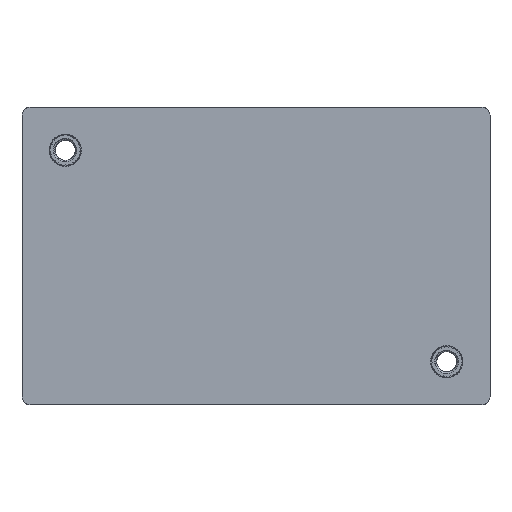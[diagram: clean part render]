
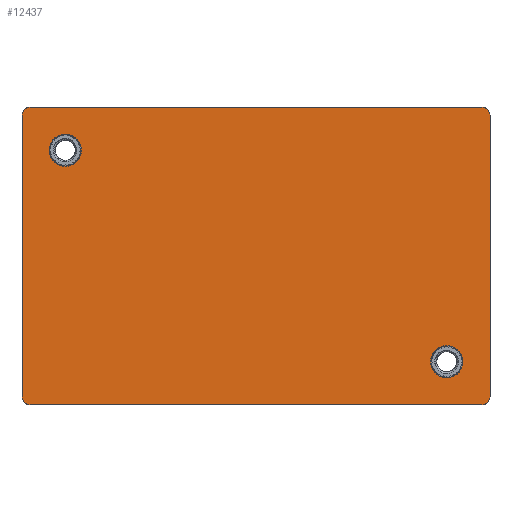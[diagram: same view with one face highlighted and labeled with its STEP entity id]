
A CAD part, front view. The second image highlights one B-rep face of the part: STEP entity #12437.
In plain terms, the highlighted planar face has unit normal (0, -1, 0).
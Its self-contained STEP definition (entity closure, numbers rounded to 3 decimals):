
#151 = DIRECTION ( 'NONE',  ( 0., 0., -1. ) ) ;
#265 = AXIS2_PLACEMENT_3D ( 'NONE', #15855, #11942, #13534 ) ;
#390 = ORIENTED_EDGE ( 'NONE', *, *, #10513, .F. ) ;
#498 = ORIENTED_EDGE ( 'NONE', *, *, #12482, .F. ) ;
#718 = CARTESIAN_POINT ( 'NONE',  ( -27.95, -1.2, 17.4 ) ) ;
#1566 = AXIS2_PLACEMENT_3D ( 'NONE', #7202, #7445, #1979 ) ;
#1718 = VERTEX_POINT ( 'NONE', #1976 ) ;
#1738 = EDGE_CURVE ( 'NONE', #16261, #16261, #15338, .T. ) ;
#1851 = AXIS2_PLACEMENT_3D ( 'NONE', #8055, #9143, #151 ) ;
#1976 = CARTESIAN_POINT ( 'NONE',  ( 28.95, -1.2, -17.4 ) ) ;
#1979 = DIRECTION ( 'NONE',  ( 0., 0., 1. ) ) ;
#2053 = ORIENTED_EDGE ( 'NONE', *, *, #2677, .T. ) ;
#2055 = DIRECTION ( 'NONE',  ( 1., 0., 0. ) ) ;
#2379 = AXIS2_PLACEMENT_3D ( 'NONE', #7727, #14148, #14230 ) ;
#2431 = VERTEX_POINT ( 'NONE', #6079 ) ;
#2606 = VERTEX_POINT ( 'NONE', #3791 ) ;
#2677 = EDGE_CURVE ( 'NONE', #11852, #2842, #10747, .T. ) ;
#2738 = EDGE_CURVE ( 'NONE', #11852, #1718, #13010, .T. ) ;
#2842 = VERTEX_POINT ( 'NONE', #13493 ) ;
#2865 = VECTOR ( 'NONE', #2055, 1000. ) ;
#2903 = FACE_OUTER_BOUND ( 'NONE', #3289, .T. ) ;
#3289 = EDGE_LOOP ( 'NONE', ( #7980, #15439, #390, #11232, #8024, #2053, #15864, #10983 ) ) ;
#3367 = DIRECTION ( 'NONE',  ( 0., 0., 1. ) ) ;
#3442 = CIRCLE ( 'NONE', #1566, 1. ) ;
#3448 = EDGE_CURVE ( 'NONE', #6835, #13772, #12087, .T. ) ;
#3450 = CIRCLE ( 'NONE', #2379, 2. ) ;
#3478 = CIRCLE ( 'NONE', #265, 1. ) ;
#3791 = CARTESIAN_POINT ( 'NONE',  ( 23.6, -1.2, -15.08 ) ) ;
#3967 = CARTESIAN_POINT ( 'NONE',  ( -28.95, -1.2, -18.4 ) ) ;
#4043 = AXIS2_PLACEMENT_3D ( 'NONE', #718, #11209, #9723 ) ;
#4198 = CARTESIAN_POINT ( 'NONE',  ( -28.95, -1.2, 17.4 ) ) ;
#4745 = ORIENTED_EDGE ( 'NONE', *, *, #1738, .F. ) ;
#5774 = CARTESIAN_POINT ( 'NONE',  ( -23.6, -1.2, 13.08 ) ) ;
#5797 = DIRECTION ( 'NONE',  ( 0., 0., 1. ) ) ;
#6079 = CARTESIAN_POINT ( 'NONE',  ( -28.95, -1.2, -17.4 ) ) ;
#6294 = EDGE_CURVE ( 'NONE', #2431, #13772, #13602, .T. ) ;
#6347 = DIRECTION ( 'NONE',  ( -1., 0., 0. ) ) ;
#6835 = VERTEX_POINT ( 'NONE', #11613 ) ;
#7120 = DIRECTION ( 'NONE',  ( 0., 0., -1. ) ) ;
#7202 = CARTESIAN_POINT ( 'NONE',  ( 27.95, -1.2, -17.4 ) ) ;
#7445 = DIRECTION ( 'NONE',  ( 0., -1., 0. ) ) ;
#7727 = CARTESIAN_POINT ( 'NONE',  ( 23.6, -1.2, -13.08 ) ) ;
#7980 = ORIENTED_EDGE ( 'NONE', *, *, #6294, .F. ) ;
#8024 = ORIENTED_EDGE ( 'NONE', *, *, #2738, .F. ) ;
#8055 = CARTESIAN_POINT ( 'NONE',  ( -27.95, -1.2, 17.4 ) ) ;
#8161 = AXIS2_PLACEMENT_3D ( 'NONE', #5774, #13470, #7120 ) ;
#8586 = VERTEX_POINT ( 'NONE', #11001 ) ;
#9054 = FACE_BOUND ( 'NONE', #13538, .T. ) ;
#9079 = CARTESIAN_POINT ( 'NONE',  ( 28.95, -1.2, -18.4 ) ) ;
#9143 = DIRECTION ( 'NONE',  ( 0., -1., 0. ) ) ;
#9369 = VERTEX_POINT ( 'NONE', #10463 ) ;
#9573 = DIRECTION ( 'NONE',  ( 0., -1., 0. ) ) ;
#9723 = DIRECTION ( 'NONE',  ( 0., 0., 1. ) ) ;
#10204 = EDGE_CURVE ( 'NONE', #6835, #2842, #13549, .T. ) ;
#10409 = FACE_BOUND ( 'NONE', #11399, .T. ) ;
#10463 = CARTESIAN_POINT ( 'NONE',  ( 27.95, -1.2, -18.4 ) ) ;
#10513 = EDGE_CURVE ( 'NONE', #9369, #8586, #11365, .T. ) ;
#10746 = CARTESIAN_POINT ( 'NONE',  ( 27.95, -1.2, 17.4 ) ) ;
#10747 = CIRCLE ( 'NONE', #14454, 1. ) ;
#10777 = CARTESIAN_POINT ( 'NONE',  ( -28.95, -1.2, -18.4 ) ) ;
#10911 = DIRECTION ( 'NONE',  ( 0., 0., -1. ) ) ;
#10983 = ORIENTED_EDGE ( 'NONE', *, *, #3448, .T. ) ;
#11001 = CARTESIAN_POINT ( 'NONE',  ( -27.95, -1.2, -18.4 ) ) ;
#11209 = DIRECTION ( 'NONE',  ( 0., -1., 0. ) ) ;
#11232 = ORIENTED_EDGE ( 'NONE', *, *, #12093, .T. ) ;
#11365 = LINE ( 'NONE', #3967, #12536 ) ;
#11399 = EDGE_LOOP ( 'NONE', ( #498 ) ) ;
#11613 = CARTESIAN_POINT ( 'NONE',  ( -27.95, -1.2, 18.4 ) ) ;
#11810 = PLANE ( 'NONE',  #1851 ) ;
#11852 = VERTEX_POINT ( 'NONE', #15878 ) ;
#11942 = DIRECTION ( 'NONE',  ( 0., -1., 0. ) ) ;
#12087 = CIRCLE ( 'NONE', #4043, 1. ) ;
#12093 = EDGE_CURVE ( 'NONE', #9369, #1718, #3442, .T. ) ;
#12290 = CARTESIAN_POINT ( 'NONE',  ( -28.95, -1.2, 18.4 ) ) ;
#12437 = ADVANCED_FACE ( 'NONE', ( #9054, #10409, #2903 ), #11810, .T. ) ;
#12482 = EDGE_CURVE ( 'NONE', #2606, #2606, #3450, .T. ) ;
#12536 = VECTOR ( 'NONE', #6347, 1000. ) ;
#13010 = LINE ( 'NONE', #9079, #14191 ) ;
#13470 = DIRECTION ( 'NONE',  ( 0., -1., 0. ) ) ;
#13493 = CARTESIAN_POINT ( 'NONE',  ( 27.95, -1.2, 18.4 ) ) ;
#13534 = DIRECTION ( 'NONE',  ( 0., 0., 1. ) ) ;
#13538 = EDGE_LOOP ( 'NONE', ( #4745 ) ) ;
#13549 = LINE ( 'NONE', #12290, #2865 ) ;
#13602 = LINE ( 'NONE', #10777, #15086 ) ;
#13772 = VERTEX_POINT ( 'NONE', #4198 ) ;
#13782 = CARTESIAN_POINT ( 'NONE',  ( -23.6, -1.2, 11.08 ) ) ;
#14148 = DIRECTION ( 'NONE',  ( 0., -1., 0. ) ) ;
#14191 = VECTOR ( 'NONE', #10911, 1000. ) ;
#14230 = DIRECTION ( 'NONE',  ( 0., 0., -1. ) ) ;
#14454 = AXIS2_PLACEMENT_3D ( 'NONE', #10746, #9573, #5797 ) ;
#15086 = VECTOR ( 'NONE', #3367, 1000. ) ;
#15338 = CIRCLE ( 'NONE', #8161, 2. ) ;
#15439 = ORIENTED_EDGE ( 'NONE', *, *, #16412, .T. ) ;
#15855 = CARTESIAN_POINT ( 'NONE',  ( -27.95, -1.2, -17.4 ) ) ;
#15864 = ORIENTED_EDGE ( 'NONE', *, *, #10204, .F. ) ;
#15878 = CARTESIAN_POINT ( 'NONE',  ( 28.95, -1.2, 17.4 ) ) ;
#16261 = VERTEX_POINT ( 'NONE', #13782 ) ;
#16412 = EDGE_CURVE ( 'NONE', #2431, #8586, #3478, .T. ) ;
